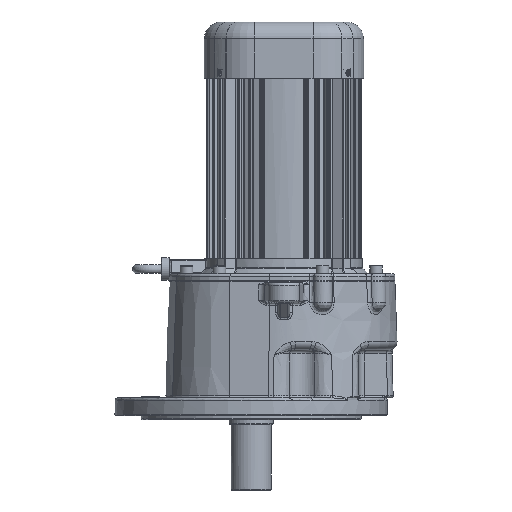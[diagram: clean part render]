
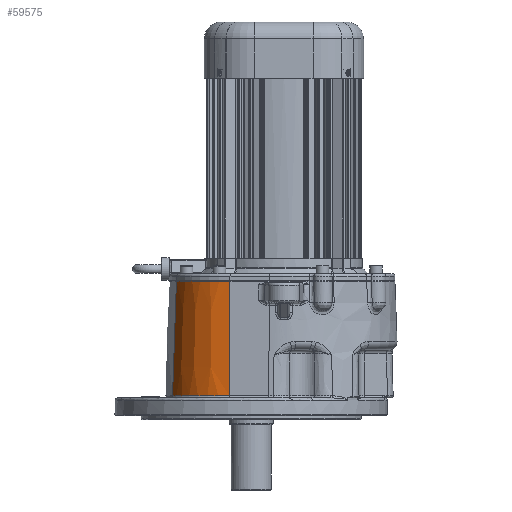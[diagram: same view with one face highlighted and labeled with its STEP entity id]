
A CAD part, left-side view. The second image highlights one B-rep face of the part: STEP entity #59575.
In plain terms, the highlighted conical face has half-angle 2 degrees and reference radius 80 mm.
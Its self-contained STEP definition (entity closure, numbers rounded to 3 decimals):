
#1071=CONICAL_SURFACE('',#64808,80.,0.035);
#4850=FACE_OUTER_BOUND('',#8537,.T.);
#8537=EDGE_LOOP('',(#45749,#45750,#45751,#45752));
#11864=CIRCLE('',#64067,80.105);
#12338=CIRCLE('',#64789,85.102);
#15563=LINE('',#102485,#18655);
#15733=LINE('',#111799,#18825);
#18655=VECTOR('',#74963,10.);
#18825=VECTOR('',#76545,10.);
#24710=VERTEX_POINT('',#101669);
#24712=VERTEX_POINT('',#101674);
#24785=VERTEX_POINT('',#102484);
#25346=VERTEX_POINT('',#111467);
#31380=EDGE_CURVE('',#24712,#24710,#11864,.T.);
#31480=EDGE_CURVE('',#24710,#24785,#15563,.T.);
#32469=EDGE_CURVE('',#24785,#25346,#12338,.T.);
#32499=EDGE_CURVE('',#24712,#25346,#15733,.T.);
#45749=ORIENTED_EDGE('',*,*,#31380,.F.);
#45750=ORIENTED_EDGE('',*,*,#32499,.T.);
#45751=ORIENTED_EDGE('',*,*,#32469,.F.);
#45752=ORIENTED_EDGE('',*,*,#31480,.F.);
#59575=ADVANCED_FACE('',(#4850),#1071,.T.);
#64067=AXIS2_PLACEMENT_3D('',#101676,#74883,#74884);
#64789=AXIS2_PLACEMENT_3D('',#111474,#76502,#76503);
#64808=AXIS2_PLACEMENT_3D('',#111800,#76546,#76547);
#74883=DIRECTION('center_axis',(0.,0.,
1.));
#74884=DIRECTION('ref_axis',(-0.255,0.967,0.));
#74963=DIRECTION('',(-0.035,0.005,-0.999));
#76502=DIRECTION('center_axis',(0.,0.,-1.));
#76503=DIRECTION('ref_axis',(-0.75,0.661,0.));
#76545=DIRECTION('',(-0.009,0.034,-0.999));
#76546=DIRECTION('center_axis',(0.,0.,-1.));
#76547=DIRECTION('ref_axis',(0.255,-0.967,0.));
#101669=CARTESIAN_POINT('',(-130.639,40.66,-4.749));
#101674=CARTESIAN_POINT('',(-71.64,107.569,-4.749));
#101676=CARTESIAN_POINT('Origin',(-51.233,30.107,-4.749));
#102484=CARTESIAN_POINT('',(-135.593,41.318,-147.855));
#102485=CARTESIAN_POINT('',(-130.536,40.646,-1.75));
#111467=CARTESIAN_POINT('',(-72.913,112.401,-147.855));
#111474=CARTESIAN_POINT('Origin',(-51.233,30.107,-147.855));
#111799=CARTESIAN_POINT('',(-71.613,107.467,-1.75));
#111800=CARTESIAN_POINT('Origin',(-51.233,30.107,-1.75));
